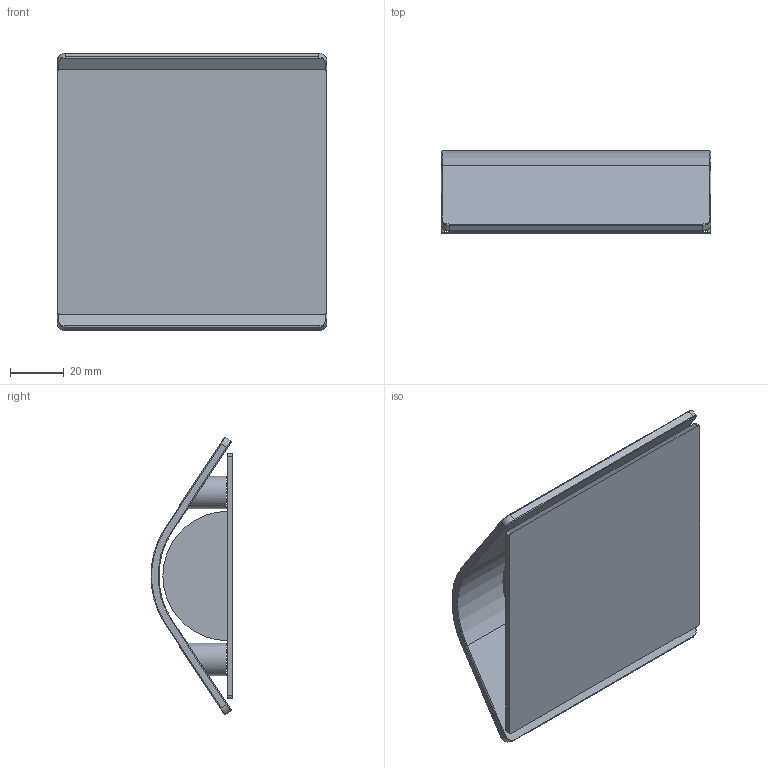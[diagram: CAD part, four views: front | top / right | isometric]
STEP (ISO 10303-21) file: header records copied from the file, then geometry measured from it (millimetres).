
FILE_DESCRIPTION((''),'2;1');
FILE_NAME('MONO-EMISSIONE_SW0001','2025-07-24T14:11:44',('Piccioli'),(''),'CREO PARAMETRIC BY PTC INC, 2025010','CREO PARAMETRIC BY PTC INC, 2025010','');
FILE_SCHEMA(('CONFIG_CONTROL_DESIGN'));
Length unit declared in the file: millimetre
Products named in the file (1): MONO-EMISSIONE_SW0001
Bounding box: 100 x 30.39 x 103.07 mm (x, y, z)
Surface area: 49669.5 mm2 (no closed solid volume)
Topology: 0 solids, 8 shells, 63 faces, 185 edges, 128 vertices
Faces by surface type: cylinder 31, plane 17, torus 12, cone 3
Entity records: 2381 total; most frequent: CARTESIAN_POINT 624, DIRECTION 398, ORIENTED_EDGE 304, EDGE_CURVE 185, AXIS2_PLACEMENT_3D 158, VERTEX_POINT 128, CIRCLE 95, VECTOR 82
